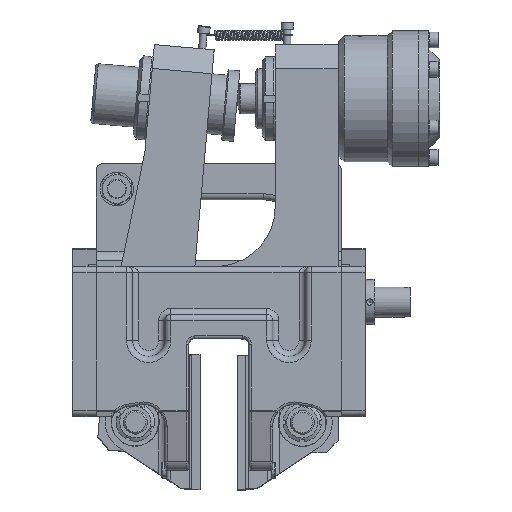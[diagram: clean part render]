
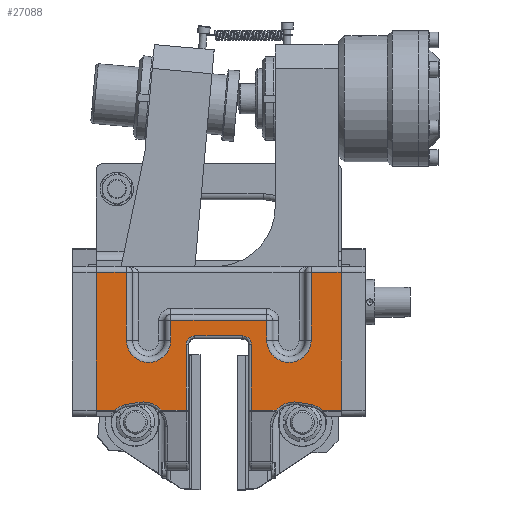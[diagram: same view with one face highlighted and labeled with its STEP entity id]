
A CAD part, top view. The second image highlights one B-rep face of the part: STEP entity #27088.
In plain terms, the highlighted planar face has unit normal (0, 0, 1).
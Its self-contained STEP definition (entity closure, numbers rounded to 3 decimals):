
#1646=PLANE('',#29497);
#2733=FACE_OUTER_BOUND('',#4330,.T.);
#4330=EDGE_LOOP('',(#21210,#21211,#21212,#21213,#21214,#21215,#21216,#21217,
#21218,#21219,#21220,#21221,#21222,#21223,#21224,#21225,#21226,#21227,#21228,
#21229,#21230,#21231,#21232,#21233,#21234,#21235));
#6096=LINE('',#49104,#7983);
#6208=LINE('',#49446,#8095);
#6253=LINE('',#49632,#8140);
#6254=LINE('',#49705,#8141);
#6256=LINE('',#49709,#8143);
#6257=LINE('',#49711,#8144);
#6258=LINE('',#49715,#8145);
#6259=LINE('',#49719,#8146);
#6260=LINE('',#49721,#8147);
#6261=LINE('',#49725,#8148);
#6262=LINE('',#49728,#8149);
#6263=LINE('',#49730,#8150);
#6264=LINE('',#49732,#8151);
#6265=LINE('',#49736,#8152);
#6266=LINE('',#49738,#8153);
#6267=LINE('',#49740,#8154);
#6268=LINE('',#49744,#8155);
#6269=LINE('',#49745,#8156);
#7983=VECTOR('',#34828,10.);
#8095=VECTOR('',#35154,10.);
#8140=VECTOR('',#35281,10.);
#8141=VECTOR('',#35298,10.);
#8143=VECTOR('',#35302,10.);
#8144=VECTOR('',#35303,10.);
#8145=VECTOR('',#35306,10.);
#8146=VECTOR('',#35309,10.);
#8147=VECTOR('',#35310,10.);
#8148=VECTOR('',#35313,10.);
#8149=VECTOR('',#35316,10.);
#8150=VECTOR('',#35317,5.);
#8151=VECTOR('',#35318,10.);
#8152=VECTOR('',#35321,10.);
#8153=VECTOR('',#35322,10.);
#8154=VECTOR('',#35323,10.);
#8155=VECTOR('',#35326,10.);
#8156=VECTOR('',#35327,5.);
#9758=CIRCLE('',#29486,20.);
#9762=CIRCLE('',#29492,18.);
#9764=CIRCLE('',#29498,7.);
#9765=CIRCLE('',#29499,7.);
#9766=CIRCLE('',#29500,20.);
#9767=CIRCLE('',#29501,18.);
#9768=CIRCLE('',#29502,18.5);
#9769=CIRCLE('',#29503,18.5);
#11771=VERTEX_POINT('',#49097);
#11773=VERTEX_POINT('',#49103);
#11893=VERTEX_POINT('',#49436);
#11896=VERTEX_POINT('',#49444);
#11931=VERTEX_POINT('',#49610);
#11933=VERTEX_POINT('',#49622);
#11935=VERTEX_POINT('',#49628);
#11937=VERTEX_POINT('',#49634);
#11943=VERTEX_POINT('',#49708);
#11944=VERTEX_POINT('',#49710);
#11945=VERTEX_POINT('',#49712);
#11946=VERTEX_POINT('',#49714);
#11947=VERTEX_POINT('',#49716);
#11948=VERTEX_POINT('',#49718);
#11949=VERTEX_POINT('',#49720);
#11950=VERTEX_POINT('',#49722);
#11951=VERTEX_POINT('',#49724);
#11952=VERTEX_POINT('',#49726);
#11953=VERTEX_POINT('',#49729);
#11954=VERTEX_POINT('',#49731);
#11955=VERTEX_POINT('',#49733);
#11956=VERTEX_POINT('',#49735);
#11957=VERTEX_POINT('',#49737);
#11958=VERTEX_POINT('',#49739);
#11959=VERTEX_POINT('',#49741);
#11960=VERTEX_POINT('',#49743);
#15005=EDGE_CURVE('',#11773,#11771,#6096,.T.);
#15176=EDGE_CURVE('',#11893,#11896,#6208,.T.);
#15241=EDGE_CURVE('',#11931,#11933,#9758,.T.);
#15244=EDGE_CURVE('',#11933,#11935,#6253,.T.);
#15247=EDGE_CURVE('',#11935,#11937,#9762,.T.);
#15254=EDGE_CURVE('',#11937,#11771,#6254,.T.);
#15256=EDGE_CURVE('',#11943,#11931,#6256,.T.);
#15257=EDGE_CURVE('',#11944,#11943,#6257,.T.);
#15258=EDGE_CURVE('',#11945,#11944,#9764,.T.);
#15259=EDGE_CURVE('',#11946,#11945,#6258,.T.);
#15260=EDGE_CURVE('',#11947,#11946,#9765,.T.);
#15261=EDGE_CURVE('',#11948,#11947,#6259,.T.);
#15262=EDGE_CURVE('',#11949,#11948,#6260,.T.);
#15263=EDGE_CURVE('',#11950,#11949,#9766,.T.);
#15264=EDGE_CURVE('',#11951,#11950,#6261,.T.);
#15265=EDGE_CURVE('',#11952,#11951,#9767,.T.);
#15266=EDGE_CURVE('',#11893,#11952,#6262,.T.);
#15267=EDGE_CURVE('',#11953,#11896,#6263,.T.);
#15268=EDGE_CURVE('',#11954,#11953,#6264,.T.);
#15269=EDGE_CURVE('',#11955,#11954,#9768,.T.);
#15270=EDGE_CURVE('',#11956,#11955,#6265,.T.);
#15271=EDGE_CURVE('',#11957,#11956,#6266,.T.);
#15272=EDGE_CURVE('',#11958,#11957,#6267,.T.);
#15273=EDGE_CURVE('',#11959,#11958,#9769,.T.);
#15274=EDGE_CURVE('',#11960,#11959,#6268,.T.);
#15275=EDGE_CURVE('',#11773,#11960,#6269,.T.);
#21210=ORIENTED_EDGE('',*,*,#15247,.F.);
#21211=ORIENTED_EDGE('',*,*,#15244,.F.);
#21212=ORIENTED_EDGE('',*,*,#15241,.F.);
#21213=ORIENTED_EDGE('',*,*,#15256,.F.);
#21214=ORIENTED_EDGE('',*,*,#15257,.F.);
#21215=ORIENTED_EDGE('',*,*,#15258,.F.);
#21216=ORIENTED_EDGE('',*,*,#15259,.F.);
#21217=ORIENTED_EDGE('',*,*,#15260,.F.);
#21218=ORIENTED_EDGE('',*,*,#15261,.F.);
#21219=ORIENTED_EDGE('',*,*,#15262,.F.);
#21220=ORIENTED_EDGE('',*,*,#15263,.F.);
#21221=ORIENTED_EDGE('',*,*,#15264,.F.);
#21222=ORIENTED_EDGE('',*,*,#15265,.F.);
#21223=ORIENTED_EDGE('',*,*,#15266,.F.);
#21224=ORIENTED_EDGE('',*,*,#15176,.T.);
#21225=ORIENTED_EDGE('',*,*,#15267,.F.);
#21226=ORIENTED_EDGE('',*,*,#15268,.F.);
#21227=ORIENTED_EDGE('',*,*,#15269,.F.);
#21228=ORIENTED_EDGE('',*,*,#15270,.F.);
#21229=ORIENTED_EDGE('',*,*,#15271,.F.);
#21230=ORIENTED_EDGE('',*,*,#15272,.F.);
#21231=ORIENTED_EDGE('',*,*,#15273,.F.);
#21232=ORIENTED_EDGE('',*,*,#15274,.F.);
#21233=ORIENTED_EDGE('',*,*,#15275,.F.);
#21234=ORIENTED_EDGE('',*,*,#15005,.T.);
#21235=ORIENTED_EDGE('',*,*,#15254,.F.);
#27088=ADVANCED_FACE('',(#2733),#1646,.T.);
#29486=AXIS2_PLACEMENT_3D('',#49626,#35274,#35275);
#29492=AXIS2_PLACEMENT_3D('',#49638,#35288,#35289);
#29497=AXIS2_PLACEMENT_3D('',#49707,#35300,#35301);
#29498=AXIS2_PLACEMENT_3D('',#49713,#35304,#35305);
#29499=AXIS2_PLACEMENT_3D('',#49717,#35307,#35308);
#29500=AXIS2_PLACEMENT_3D('',#49723,#35311,#35312);
#29501=AXIS2_PLACEMENT_3D('',#49727,#35314,#35315);
#29502=AXIS2_PLACEMENT_3D('',#49734,#35319,#35320);
#29503=AXIS2_PLACEMENT_3D('',#49742,#35324,#35325);
#34828=DIRECTION('',(0.,-1.,0.));
#35154=DIRECTION('',(0.,1.,0.));
#35274=DIRECTION('center_axis',(0.,0.,
1.));
#35275=DIRECTION('ref_axis',(0.29,0.957,0.));
#35281=DIRECTION('',(-0.985,-0.174,0.));
#35288=DIRECTION('center_axis',(0.,0.,
1.));
#35289=DIRECTION('ref_axis',(-0.388,0.922,0.));
#35298=DIRECTION('',(-1.,0.,0.));
#35300=DIRECTION('center_axis',(0.,0.,
1.));
#35301=DIRECTION('ref_axis',(1.,0.,0.));
#35302=DIRECTION('',(-1.,0.,0.));
#35303=DIRECTION('',(0.,-1.,0.));
#35304=DIRECTION('center_axis',(0.,0.,
1.));
#35305=DIRECTION('ref_axis',(-0.707,0.707,0.));
#35306=DIRECTION('',(-1.,0.,0.));
#35307=DIRECTION('center_axis',(0.,0.,
1.));
#35308=DIRECTION('ref_axis',(0.707,0.707,0.));
#35309=DIRECTION('',(0.,1.,0.));
#35310=DIRECTION('',(-1.,0.,0.));
#35311=DIRECTION('center_axis',(0.,0.,
1.));
#35312=DIRECTION('ref_axis',(-0.29,0.957,0.));
#35313=DIRECTION('',(-0.985,0.174,0.));
#35314=DIRECTION('center_axis',(0.,0.,
1.));
#35315=DIRECTION('ref_axis',(0.388,0.922,0.));
#35316=DIRECTION('',(-1.,0.,0.));
#35317=DIRECTION('',(1.,0.,0.));
#35318=DIRECTION('',(0.,1.,0.));
#35319=DIRECTION('center_axis',(0.,0.,
1.));
#35320=DIRECTION('ref_axis',(0.,-1.,0.));
#35321=DIRECTION('',(0.,-1.,0.));
#35322=DIRECTION('',(1.,0.,0.));
#35323=DIRECTION('',(0.,1.,0.));
#35324=DIRECTION('center_axis',(0.,0.,
1.));
#35325=DIRECTION('ref_axis',(0.,-1.,0.));
#35326=DIRECTION('',(0.,-1.,0.));
#35327=DIRECTION('',(1.,0.,0.));
#49097=CARTESIAN_POINT('',(-102.,50.,285.));
#49103=CARTESIAN_POINT('',(-102.,165.,285.));
#49104=CARTESIAN_POINT('',(-102.,45.,285.));
#49436=CARTESIAN_POINT('',(102.,50.,285.));
#49444=CARTESIAN_POINT('',(102.,165.,285.));
#49446=CARTESIAN_POINT('',(102.,170.,285.));
#49610=CARTESIAN_POINT('',(-47.801,50.,285.));
#49622=CARTESIAN_POINT('',(-66.478,56.695,285.));
#49626=CARTESIAN_POINT('Origin',(-63.,37.,285.));
#49628=CARTESIAN_POINT('',(-77.63,54.726,285.));
#49632=CARTESIAN_POINT('',(-36.958,61.909,285.));
#49634=CARTESIAN_POINT('',(-86.95,50.,285.));
#49638=CARTESIAN_POINT('Origin',(-74.5,37.,285.));
#49705=CARTESIAN_POINT('',(-102.,50.,285.));
#49707=CARTESIAN_POINT('Origin',(0.,90.129,285.));
#49708=CARTESIAN_POINT('',(-27.,50.,285.));
#49709=CARTESIAN_POINT('',(-102.,50.,285.));
#49710=CARTESIAN_POINT('',(-27.,105.,285.));
#49711=CARTESIAN_POINT('',(-27.,45.065,285.));
#49712=CARTESIAN_POINT('',(-20.,112.,285.));
#49713=CARTESIAN_POINT('Origin',(-20.,105.,285.));
#49714=CARTESIAN_POINT('',(20.,112.,285.));
#49715=CARTESIAN_POINT('',(-10.,112.,285.));
#49716=CARTESIAN_POINT('',(27.,105.,285.));
#49717=CARTESIAN_POINT('Origin',(20.,105.,285.));
#49718=CARTESIAN_POINT('',(27.,50.,285.));
#49719=CARTESIAN_POINT('',(27.,97.565,285.));
#49720=CARTESIAN_POINT('',(47.801,50.,285.));
#49721=CARTESIAN_POINT('',(-102.,50.,285.));
#49722=CARTESIAN_POINT('',(66.478,56.695,285.));
#49723=CARTESIAN_POINT('Origin',(63.,37.,285.));
#49724=CARTESIAN_POINT('',(77.63,54.726,285.));
#49725=CARTESIAN_POINT('',(31.381,62.893,285.));
#49726=CARTESIAN_POINT('',(86.95,50.,285.));
#49727=CARTESIAN_POINT('Origin',(74.5,37.,285.));
#49728=CARTESIAN_POINT('',(-102.,50.,285.));
#49729=CARTESIAN_POINT('',(77.,165.,285.));
#49730=CARTESIAN_POINT('',(0.,165.,285.));
#49731=CARTESIAN_POINT('',(77.,108.5,285.));
#49732=CARTESIAN_POINT('',(77.,127.565,285.));
#49733=CARTESIAN_POINT('',(40.,108.5,285.));
#49734=CARTESIAN_POINT('Origin',(58.5,108.5,285.));
#49735=CARTESIAN_POINT('',(40.,125.,285.));
#49736=CARTESIAN_POINT('',(40.,99.315,285.));
#49737=CARTESIAN_POINT('',(-40.,125.,285.));
#49738=CARTESIAN_POINT('',(20.,125.,285.));
#49739=CARTESIAN_POINT('',(-40.,108.5,285.));
#49740=CARTESIAN_POINT('',(-40.,107.565,285.));
#49741=CARTESIAN_POINT('',(-77.,108.5,285.));
#49742=CARTESIAN_POINT('Origin',(-58.5,108.5,285.));
#49743=CARTESIAN_POINT('',(-77.,165.,285.));
#49744=CARTESIAN_POINT('',(-77.,99.315,285.));
#49745=CARTESIAN_POINT('',(102.,165.,285.));
